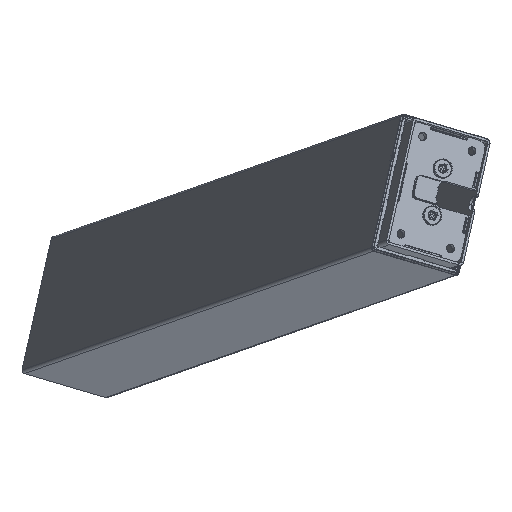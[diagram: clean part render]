
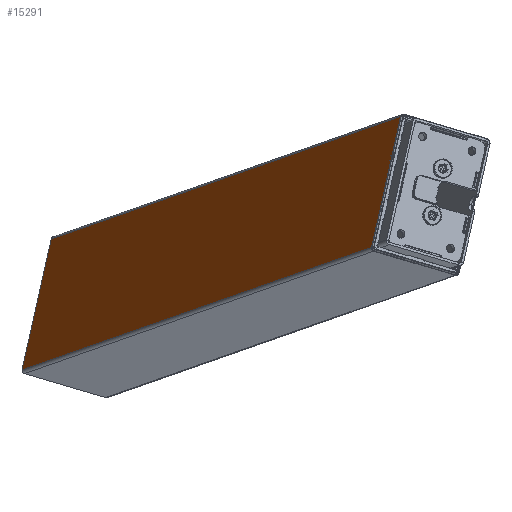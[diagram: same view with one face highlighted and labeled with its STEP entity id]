
A CAD part, top view. The second image highlights one B-rep face of the part: STEP entity #15291.
In plain terms, the highlighted planar face has unit normal (-0.913, 0.268, 0.308).
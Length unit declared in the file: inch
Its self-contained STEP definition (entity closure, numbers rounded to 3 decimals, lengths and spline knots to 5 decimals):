
#1961 = VERTEX_POINT ( 'NONE', #36804 ) ;
#2291 = CARTESIAN_POINT ( 'NONE',  ( 1.24219, -7.77719, 34.28562 ) ) ;
#5789 = VECTOR ( 'NONE', #37819, 39.37008 ) ;
#5942 = FACE_OUTER_BOUND ( 'NONE', #21926, .T. ) ;
#8021 = ORIENTED_EDGE ( 'NONE', *, *, #31192, .T. ) ;
#8652 = PLANE ( 'NONE',  #26176 ) ;
#9629 = VECTOR ( 'NONE', #33961, 39.37008 ) ;
#9730 = EDGE_CURVE ( 'NONE', #26036, #1961, #32297, .T. ) ;
#10064 = LINE ( 'NONE', #33585, #9629 ) ;
#10992 = VECTOR ( 'NONE', #17097, 39.37008 ) ;
#11397 = CARTESIAN_POINT ( 'NONE',  ( 1.25891, -7.70194, 34.26958 ) ) ;
#11413 = CARTESIAN_POINT ( 'NONE',  ( 1.24219, -7.77719, 34.28562 ) ) ;
#12825 = CARTESIAN_POINT ( 'NONE',  ( 1.97783, -4.46594, 33.5802 ) ) ;
#14655 = ORIENTED_EDGE ( 'NONE', *, *, #27314, .T. ) ;
#15291 = ADVANCED_FACE ( 'NONE', ( #5942 ), #8652, .F. ) ;
#17097 = DIRECTION ( 'NONE',  ( 0.349, 0.121, 0.929 ) ) ;
#19108 = CARTESIAN_POINT ( 'NONE',  ( -7.39087, -10.6914, 11.21659 ) ) ;
#19577 = LINE ( 'NONE', #33859, #31176 ) ;
#20316 = VERTEX_POINT ( 'NONE', #19108 ) ;
#21096 = EDGE_CURVE ( 'NONE', #20316, #1961, #30932, .T. ) ;
#21687 = DIRECTION ( 'NONE',  ( -0.349, -0.121, -0.929 ) ) ;
#21926 = EDGE_LOOP ( 'NONE', ( #8021, #35786, #35295, #14655 ) ) ;
#26036 = VERTEX_POINT ( 'NONE', #12825 ) ;
#26176 = AXIS2_PLACEMENT_3D ( 'NONE', #11413, #37891, #32290 ) ;
#27314 = EDGE_CURVE ( 'NONE', #26036, #32071, #19577, .T. ) ;
#30932 = LINE ( 'NONE', #11397, #10992 ) ;
#31176 = VECTOR ( 'NONE', #21687, 39.37008 ) ;
#31192 = EDGE_CURVE ( 'NONE', #32071, #20316, #10064, .T. ) ;
#32071 = VERTEX_POINT ( 'NONE', #37436 ) ;
#32290 = DIRECTION ( 'NONE',  ( 0.212, 0.956, -0.204 ) ) ;
#32297 = LINE ( 'NONE', #2291, #5789 ) ;
#33585 = CARTESIAN_POINT ( 'NONE',  ( -7.40759, -10.76665, 11.23262 ) ) ;
#33859 = CARTESIAN_POINT ( 'NONE',  ( 1.97783, -4.46594, 33.5802 ) ) ;
#33961 = DIRECTION ( 'NONE',  ( -0.212, -0.956, 0.204 ) ) ;
#35295 = ORIENTED_EDGE ( 'NONE', *, *, #9730, .F. ) ;
#35786 = ORIENTED_EDGE ( 'NONE', *, *, #21096, .T. ) ;
#36804 = CARTESIAN_POINT ( 'NONE',  ( 1.25891, -7.70194, 34.26958 ) ) ;
#37436 = CARTESIAN_POINT ( 'NONE',  ( -6.67194, -7.4554, 10.5272 ) ) ;
#37819 = DIRECTION ( 'NONE',  ( -0.212, -0.956, 0.204 ) ) ;
#37891 = DIRECTION ( 'NONE',  ( 0.913, -0.268, -0.308 ) ) ;
